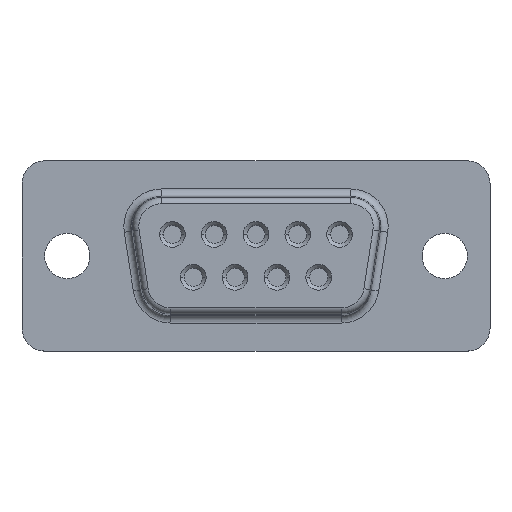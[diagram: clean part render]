
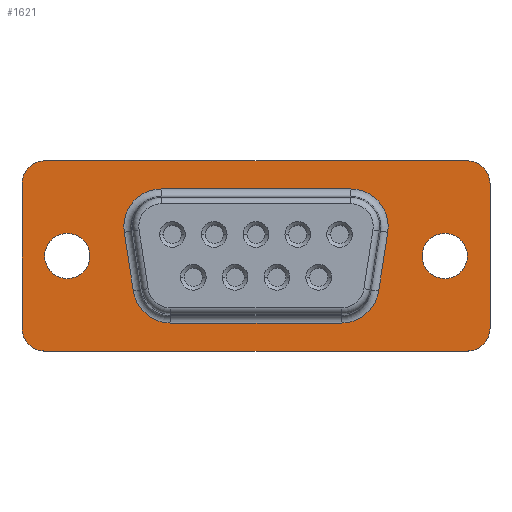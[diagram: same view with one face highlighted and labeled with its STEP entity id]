
A CAD part, top view. The second image highlights one B-rep face of the part: STEP entity #1621.
In plain terms, the highlighted planar face has unit normal (0, 0, 1).
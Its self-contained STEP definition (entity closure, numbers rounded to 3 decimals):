
#1263=CARTESIAN_POINT('Vertex',(14.,6.3,0.)) ;
#1266=CARTESIAN_POINT('Axis2P3D Location',(14.,4.8,0.)) ;
#1270=CARTESIAN_POINT('Vertex',(15.5,4.8,0.)) ;
#1294=CARTESIAN_POINT('Vertex',(-14.,6.3,0.)) ;
#1297=CARTESIAN_POINT('Line Origine',(0.,6.3,0.)) ;
#1318=CARTESIAN_POINT('Vertex',(-15.5,4.8,0.)) ;
#1321=CARTESIAN_POINT('Axis2P3D Location',(-14.,4.8,0.)) ;
#1342=CARTESIAN_POINT('Vertex',(-15.5,-4.8,0.)) ;
#1345=CARTESIAN_POINT('Line Origine',(-15.5,0.,0.)) ;
#1366=CARTESIAN_POINT('Vertex',(-14.,-6.3,0.)) ;
#1369=CARTESIAN_POINT('Axis2P3D Location',(-14.,-4.8,0.)) ;
#1386=CARTESIAN_POINT('Line Origine',(0.,-6.3,0.)) ;
#1390=CARTESIAN_POINT('Vertex',(14.,-6.3,0.)) ;
#1414=CARTESIAN_POINT('Vertex',(15.5,-4.8,0.)) ;
#1417=CARTESIAN_POINT('Axis2P3D Location',(14.,-4.8,0.)) ;
#1434=CARTESIAN_POINT('Line Origine',(15.5,0.,0.)) ;
#1455=CARTESIAN_POINT('Vertex',(-11.,0.,0.)) ;
#1458=CARTESIAN_POINT('Axis2P3D Location',(-12.5,0.,0.)) ;
#1462=CARTESIAN_POINT('Vertex',(-14.,0.,0.)) ;
#1477=CARTESIAN_POINT('Axis2P3D Location',(-12.5,0.,0.)) ;
#1498=CARTESIAN_POINT('Vertex',(14.,0.,0.)) ;
#1501=CARTESIAN_POINT('Axis2P3D Location',(12.5,0.,0.)) ;
#1505=CARTESIAN_POINT('Vertex',(11.,0.,0.)) ;
#1520=CARTESIAN_POINT('Axis2P3D Location',(12.5,0.,0.)) ;
#1532=CARTESIAN_POINT('Axis2P3D Location',(0.,0.,0.)) ;
#1547=CARTESIAN_POINT('Axis2P3D Location',(-5.661,-1.95,0.)) ;
#1551=CARTESIAN_POINT('Vertex',(-8.123,-2.332,0.)) ;
#1553=CARTESIAN_POINT('Vertex',(-5.661,-4.441,0.)) ;
#1556=CARTESIAN_POINT('Line Origine',(-8.426,-0.382,0.)) ;
#1560=CARTESIAN_POINT('Vertex',(-8.728,1.568,0.)) ;
#1563=CARTESIAN_POINT('Axis2P3D Location',(-6.266,1.95,0.)) ;
#1567=CARTESIAN_POINT('Vertex',(-6.266,4.441,0.)) ;
#1570=CARTESIAN_POINT('Line Origine',(0.,4.441,0.)) ;
#1574=CARTESIAN_POINT('Vertex',(6.266,4.441,0.)) ;
#1577=CARTESIAN_POINT('Axis2P3D Location',(6.266,1.95,0.)) ;
#1581=CARTESIAN_POINT('Vertex',(8.728,1.568,0.)) ;
#1584=CARTESIAN_POINT('Line Origine',(8.426,-0.382,0.)) ;
#1588=CARTESIAN_POINT('Vertex',(8.123,-2.332,0.)) ;
#1591=CARTESIAN_POINT('Axis2P3D Location',(5.661,-1.95,0.)) ;
#1595=CARTESIAN_POINT('Vertex',(5.661,-4.441,0.)) ;
#1598=CARTESIAN_POINT('Line Origine',(0.,-4.441,0.)) ;
#1267=DIRECTION('Axis2P3D Direction',(0.,0.,-1.)) ;
#1298=DIRECTION('Vector Direction',(1.,0.,0.)) ;
#1322=DIRECTION('Axis2P3D Direction',(0.,0.,-1.)) ;
#1346=DIRECTION('Vector Direction',(0.,-1.,0.)) ;
#1370=DIRECTION('Axis2P3D Direction',(0.,0.,-1.)) ;
#1387=DIRECTION('Vector Direction',(-1.,0.,0.)) ;
#1418=DIRECTION('Axis2P3D Direction',(0.,0.,-1.)) ;
#1435=DIRECTION('Vector Direction',(0.,1.,0.)) ;
#1459=DIRECTION('Axis2P3D Direction',(0.,0.,1.)) ;
#1478=DIRECTION('Axis2P3D Direction',(0.,0.,1.)) ;
#1502=DIRECTION('Axis2P3D Direction',(0.,0.,1.)) ;
#1521=DIRECTION('Axis2P3D Direction',(0.,0.,1.)) ;
#1533=DIRECTION('Axis2P3D Direction',(0.,0.,1.)) ;
#1534=DIRECTION('Axis2P3D XDirection',(1.,0.,0.)) ;
#1548=DIRECTION('Axis2P3D Direction',(0.,0.,1.)) ;
#1557=DIRECTION('Vector Direction',(0.153,-0.988,0.)) ;
#1564=DIRECTION('Axis2P3D Direction',(0.,0.,1.)) ;
#1571=DIRECTION('Vector Direction',(1.,0.,0.)) ;
#1578=DIRECTION('Axis2P3D Direction',(0.,0.,1.)) ;
#1585=DIRECTION('Vector Direction',(-0.153,-0.988,0.)) ;
#1592=DIRECTION('Axis2P3D Direction',(0.,0.,1.)) ;
#1599=DIRECTION('Vector Direction',(-1.,0.,0.)) ;
#1268=AXIS2_PLACEMENT_3D('Circle Axis2P3D',#1266,#1267,$) ;
#1323=AXIS2_PLACEMENT_3D('Circle Axis2P3D',#1321,#1322,$) ;
#1371=AXIS2_PLACEMENT_3D('Circle Axis2P3D',#1369,#1370,$) ;
#1419=AXIS2_PLACEMENT_3D('Circle Axis2P3D',#1417,#1418,$) ;
#1460=AXIS2_PLACEMENT_3D('Circle Axis2P3D',#1458,#1459,$) ;
#1479=AXIS2_PLACEMENT_3D('Circle Axis2P3D',#1477,#1478,$) ;
#1503=AXIS2_PLACEMENT_3D('Circle Axis2P3D',#1501,#1502,$) ;
#1522=AXIS2_PLACEMENT_3D('Circle Axis2P3D',#1520,#1521,$) ;
#1535=AXIS2_PLACEMENT_3D('Plane Axis2P3D',#1532,#1533,#1534) ;
#1549=AXIS2_PLACEMENT_3D('Circle Axis2P3D',#1547,#1548,$) ;
#1565=AXIS2_PLACEMENT_3D('Circle Axis2P3D',#1563,#1564,$) ;
#1579=AXIS2_PLACEMENT_3D('Circle Axis2P3D',#1577,#1578,$) ;
#1593=AXIS2_PLACEMENT_3D('Circle Axis2P3D',#1591,#1592,$) ;
#1538=ORIENTED_EDGE('',*,*,#1438,.T.) ;
#1539=ORIENTED_EDGE('',*,*,#1272,.F.) ;
#1540=ORIENTED_EDGE('',*,*,#1301,.T.) ;
#1541=ORIENTED_EDGE('',*,*,#1325,.F.) ;
#1542=ORIENTED_EDGE('',*,*,#1349,.T.) ;
#1543=ORIENTED_EDGE('',*,*,#1373,.F.) ;
#1544=ORIENTED_EDGE('',*,*,#1392,.T.) ;
#1545=ORIENTED_EDGE('',*,*,#1421,.F.) ;
#1604=ORIENTED_EDGE('',*,*,#1555,.F.) ;
#1605=ORIENTED_EDGE('',*,*,#1562,.F.) ;
#1606=ORIENTED_EDGE('',*,*,#1569,.F.) ;
#1607=ORIENTED_EDGE('',*,*,#1576,.F.) ;
#1608=ORIENTED_EDGE('',*,*,#1583,.F.) ;
#1609=ORIENTED_EDGE('',*,*,#1590,.F.) ;
#1610=ORIENTED_EDGE('',*,*,#1597,.F.) ;
#1611=ORIENTED_EDGE('',*,*,#1602,.F.) ;
#1614=ORIENTED_EDGE('',*,*,#1481,.F.) ;
#1615=ORIENTED_EDGE('',*,*,#1464,.F.) ;
#1618=ORIENTED_EDGE('',*,*,#1524,.F.) ;
#1619=ORIENTED_EDGE('',*,*,#1507,.F.) ;
#1612=FACE_BOUND('',#1603,.T.) ;
#1616=FACE_BOUND('',#1613,.T.) ;
#1620=FACE_BOUND('',#1617,.T.) ;
#1299=VECTOR('Line Direction',#1298,1.) ;
#1347=VECTOR('Line Direction',#1346,1.) ;
#1388=VECTOR('Line Direction',#1387,1.) ;
#1436=VECTOR('Line Direction',#1435,1.) ;
#1558=VECTOR('Line Direction',#1557,1.) ;
#1572=VECTOR('Line Direction',#1571,1.) ;
#1586=VECTOR('Line Direction',#1585,1.) ;
#1600=VECTOR('Line Direction',#1599,1.) ;
#1621=ADVANCED_FACE('Part Body',(#1546,#1612,#1616,#1620),#1536,.T.) ;
#1269=CIRCLE('generated circle',#1268,1.5) ;
#1324=CIRCLE('generated circle',#1323,1.5) ;
#1372=CIRCLE('generated circle',#1371,1.5) ;
#1420=CIRCLE('generated circle',#1419,1.5) ;
#1461=CIRCLE('generated circle',#1460,1.5) ;
#1480=CIRCLE('generated circle',#1479,1.5) ;
#1504=CIRCLE('generated circle',#1503,1.5) ;
#1523=CIRCLE('generated circle',#1522,1.5) ;
#1550=CIRCLE('generated circle',#1549,2.491) ;
#1566=CIRCLE('generated circle',#1565,2.491) ;
#1580=CIRCLE('generated circle',#1579,2.491) ;
#1594=CIRCLE('generated circle',#1593,2.491) ;
#1272=EDGE_CURVE('',#1264,#1271,#1269,.T.) ;
#1301=EDGE_CURVE('',#1264,#1295,#1300,.F.) ;
#1325=EDGE_CURVE('',#1319,#1295,#1324,.T.) ;
#1349=EDGE_CURVE('',#1319,#1343,#1348,.T.) ;
#1373=EDGE_CURVE('',#1367,#1343,#1372,.T.) ;
#1392=EDGE_CURVE('',#1367,#1391,#1389,.F.) ;
#1421=EDGE_CURVE('',#1415,#1391,#1420,.T.) ;
#1438=EDGE_CURVE('',#1415,#1271,#1437,.T.) ;
#1464=EDGE_CURVE('',#1456,#1463,#1461,.T.) ;
#1481=EDGE_CURVE('',#1463,#1456,#1480,.T.) ;
#1507=EDGE_CURVE('',#1499,#1506,#1504,.T.) ;
#1524=EDGE_CURVE('',#1506,#1499,#1523,.T.) ;
#1555=EDGE_CURVE('',#1552,#1554,#1550,.T.) ;
#1562=EDGE_CURVE('',#1561,#1552,#1559,.T.) ;
#1569=EDGE_CURVE('',#1568,#1561,#1566,.T.) ;
#1576=EDGE_CURVE('',#1575,#1568,#1573,.F.) ;
#1583=EDGE_CURVE('',#1582,#1575,#1580,.T.) ;
#1590=EDGE_CURVE('',#1589,#1582,#1587,.F.) ;
#1597=EDGE_CURVE('',#1596,#1589,#1594,.T.) ;
#1602=EDGE_CURVE('',#1554,#1596,#1601,.F.) ;
#1537=EDGE_LOOP('',(#1538,#1539,#1540,#1541,#1542,#1543,#1544,#1545)) ;
#1603=EDGE_LOOP('',(#1604,#1605,#1606,#1607,#1608,#1609,#1610,#1611)) ;
#1613=EDGE_LOOP('',(#1614,#1615)) ;
#1617=EDGE_LOOP('',(#1618,#1619)) ;
#1546=FACE_OUTER_BOUND('',#1537,.T.) ;
#1300=LINE('Line',#1297,#1299) ;
#1348=LINE('Line',#1345,#1347) ;
#1389=LINE('Line',#1386,#1388) ;
#1437=LINE('Line',#1434,#1436) ;
#1559=LINE('Line',#1556,#1558) ;
#1573=LINE('Line',#1570,#1572) ;
#1587=LINE('Line',#1584,#1586) ;
#1601=LINE('Line',#1598,#1600) ;
#1536=PLANE('Plane',#1535) ;
#1264=VERTEX_POINT('',#1263) ;
#1271=VERTEX_POINT('',#1270) ;
#1295=VERTEX_POINT('',#1294) ;
#1319=VERTEX_POINT('',#1318) ;
#1343=VERTEX_POINT('',#1342) ;
#1367=VERTEX_POINT('',#1366) ;
#1391=VERTEX_POINT('',#1390) ;
#1415=VERTEX_POINT('',#1414) ;
#1456=VERTEX_POINT('',#1455) ;
#1463=VERTEX_POINT('',#1462) ;
#1499=VERTEX_POINT('',#1498) ;
#1506=VERTEX_POINT('',#1505) ;
#1552=VERTEX_POINT('',#1551) ;
#1554=VERTEX_POINT('',#1553) ;
#1561=VERTEX_POINT('',#1560) ;
#1568=VERTEX_POINT('',#1567) ;
#1575=VERTEX_POINT('',#1574) ;
#1582=VERTEX_POINT('',#1581) ;
#1589=VERTEX_POINT('',#1588) ;
#1596=VERTEX_POINT('',#1595) ;
